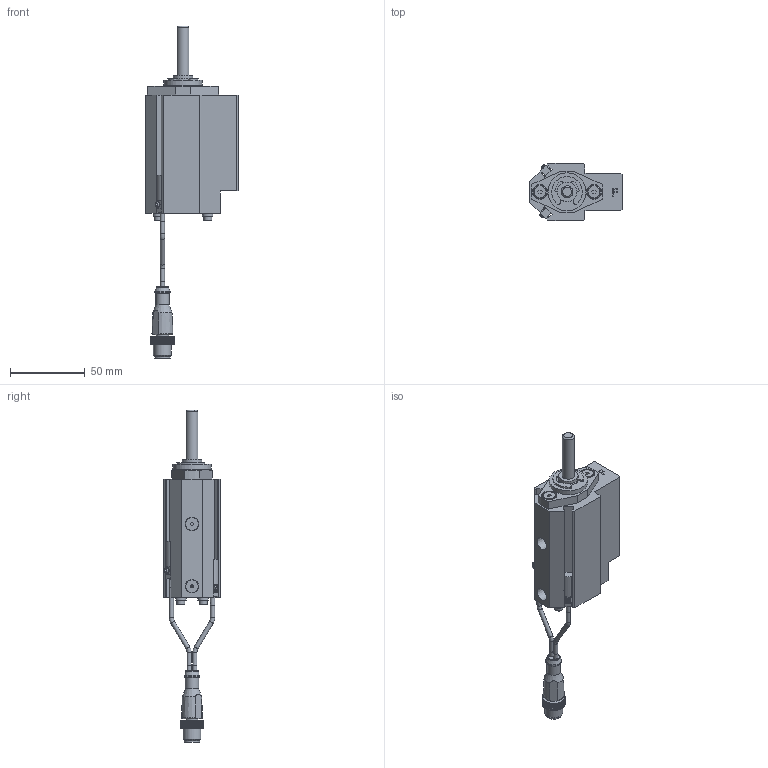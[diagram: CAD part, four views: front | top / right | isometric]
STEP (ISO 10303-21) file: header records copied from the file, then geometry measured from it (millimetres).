
FILE_DESCRIPTION(/* description */ ('NAAMS FLOATING MICRO PIN'),/* implementation_level */ '2;1');
FILE_NAME(/* name */ 'C:\Vault Workspace\CAD\Welker\Shot Pin\NMP\NMP080032EFNL3.stp',/* time_stamp */ '2021-01-28T11:54:12-05:00',/* author */ ('WELKER'),/* organization */ (''),/* preprocessor_version */ 'ST-DEVELOPER v18.1',/* originating_system */ 'Autodesk Inventor 2020',/* authorisation */ '');
FILE_SCHEMA (('AUTOMOTIVE_DESIGN { 1 0 10303 214 3 1 1 }'));
Length unit declared in the file: millimetre
Products named in the file (16): NMPL01; NMP L3 SWITCH; L3 Connector; L3 Sensor 1; L3 Sensor 2; L3 Sensor cable; L3 Sensor cable 2; M3X0.5-8 SHCS; NL3; NMPE06; NMPE03; NMPE04-DIA-LENGTH; 985432A218; NMPE01F-PORT; RMPE02; M5X5 SHOULDER
Assembly tree (22 placements, depth 3):
  NMPL01
    NMP L3 SWITCH
      L3 Connector
      L3 Sensor 1
      L3 Sensor 2
      L3 Sensor cable
      L3 Sensor cable 2
    M3X0.5-8 SHCS  x4
    NL3  x4
    NMPE06
    NMPE03
    NMPE04-DIA-LENGTH
    985432A218
    NMPE01F-PORT
    RMPE02
    M5X5 SHOULDER  x2
Bounding box: 62 x 38.1 x 221.52 mm (x, y, z)
Volume: 113092 mm3; surface area: 45152.1 mm2
Topology: 21 solids, 21 shells, 746 faces, 2019 edges, 1349 vertices
Faces by surface type: plane 552, cylinder 144, cone 35, torus 11, bspline 2, sphere 2
Full cylindrical faces by diameter (mm): 2 x2, 2.459 x4, 2.9 x10, 3 x5, 3.242 x2, 3.4 x4, 4 x2, 5 x6, 5.5 x4, 7 x4, 8 x3, 8.3 x2, 8.376 x2, 9 x3, 10 x3, 10.4 x1, 10.5 x1, 12 x1, 13 x3, 16 x2, 19.05 x3, 21 x1, 22.5 x1, 23.672 x1, 24 x1, 25.4 x1, 25.5 x1, 26.5 x1, 28.677 x1, 29.21 x1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
Entity records: 22754 total; most frequent: CARTESIAN_POINT 4161, ORIENTED_EDGE 3732, DIRECTION 3719, EDGE_CURVE 1866, LINE 1381, VECTOR 1381, VERTEX_POINT 1254, AXIS2_PLACEMENT_3D 1169
